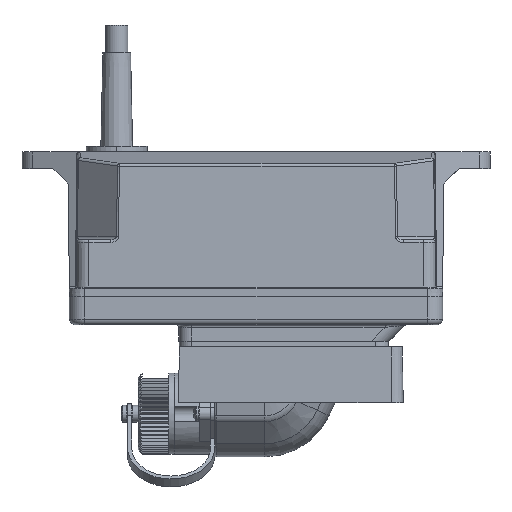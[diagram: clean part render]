
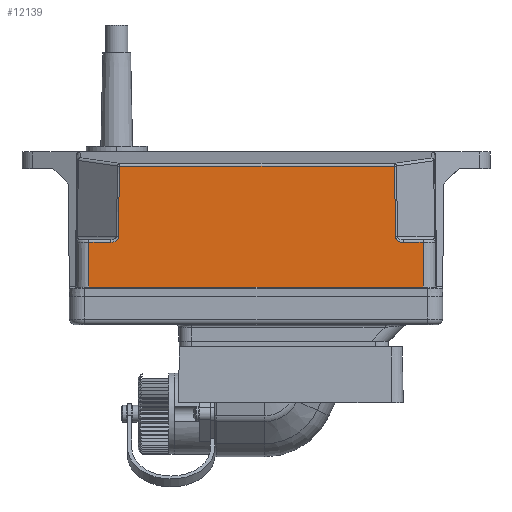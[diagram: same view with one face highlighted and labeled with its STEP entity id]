
A CAD part, left-side view. The second image highlights one B-rep face of the part: STEP entity #12139.
In plain terms, the highlighted planar face has unit normal (-1, 0, 0.009).
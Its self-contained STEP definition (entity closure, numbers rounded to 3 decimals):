
#250 = CARTESIAN_POINT ( 'NONE',  ( -43.339, -50.115, 21.474 ) ) ;
#365 = VERTEX_POINT ( 'NONE', #12010 ) ;
#572 = ORIENTED_EDGE ( 'NONE', *, *, #8343, .T. ) ;
#639 = CARTESIAN_POINT ( 'NONE',  ( -43.496, -60., 3.496 ) ) ;
#922 = VECTOR ( 'NONE', #4870, 1000. ) ;
#1556 = CARTESIAN_POINT ( 'NONE',  ( -43.356, 61.5, 19.509 ) ) ;
#1908 = LINE ( 'NONE', #27332, #922 ) ;
#2436 = AXIS2_PLACEMENT_3D ( 'NONE', #30687, #37071, #17953 ) ;
#2561 = CARTESIAN_POINT ( 'NONE',  ( -43.356, -51.292, 19.509 ) ) ;
#2592 = LINE ( 'NONE', #39404, #27234 ) ;
#2793 = LINE ( 'NONE', #19120, #35883 ) ;
#3977 = ORIENTED_EDGE ( 'NONE', *, *, #26644, .T. ) ;
#4320 = VERTEX_POINT ( 'NONE', #30491 ) ;
#4870 = DIRECTION ( 'NONE',  ( 0.009, 0., 1. ) ) ;
#4957 =( BOUNDED_CURVE ( )  B_SPLINE_CURVE ( 3, ( #18558, #21786, #2561, #25024 ),
 .UNSPECIFIED., .F., .F. ) 
 B_SPLINE_CURVE_WITH_KNOTS ( ( 4, 4 ),
 ( 0.005, 1.558 ),
 .UNSPECIFIED. ) 
 CURVE ( )  GEOMETRIC_REPRESENTATION_ITEM ( )  RATIONAL_B_SPLINE_CURVE ( ( 1., 0.809, 0.809, 1. ) ) 
 REPRESENTATION_ITEM ( '' )  );
#6917 = CARTESIAN_POINT ( 'NONE',  ( -43.356, 52.219, 19.509 ) ) ;
#7476 = LINE ( 'NONE', #1556, #40383 ) ;
#7999 = VERTEX_POINT ( 'NONE', #37237 ) ;
#8343 = EDGE_CURVE ( 'NONE', #31584, #7999, #7476, .T. ) ;
#10272 = EDGE_CURVE ( 'NONE', #31584, #13398, #18372, .T. ) ;
#10889 = VECTOR ( 'NONE', #38330, 1000. ) ;
#11219 = EDGE_CURVE ( 'NONE', #25488, #13398, #13315, .T. ) ;
#11451 = LINE ( 'NONE', #20601, #36888 ) ;
#12010 = CARTESIAN_POINT ( 'NONE',  ( -43.356, -52.926, 19.509 ) ) ;
#12139 = ADVANCED_FACE ( 'NONE', ( #15746 ), #39950, .T. ) ;
#12286 = VECTOR ( 'NONE', #20000, 1000. ) ;
#12404 = ORIENTED_EDGE ( 'NONE', *, *, #25585, .T. ) ;
#12610 = EDGE_LOOP ( 'NONE', ( #14961, #19302, #21280, #12404, #34320, #24752, #3977, #27639, #38376, #572 ) ) ;
#13315 = LINE ( 'NONE', #16782, #12286 ) ;
#13396 = CARTESIAN_POINT ( 'NONE',  ( -43.356, 50.585, 19.509 ) ) ;
#13398 = VERTEX_POINT ( 'NONE', #27932 ) ;
#14961 = ORIENTED_EDGE ( 'NONE', *, *, #24282, .F. ) ;
#15529 = CARTESIAN_POINT ( 'NONE',  ( -43.5, -60., 3. ) ) ;
#15746 = FACE_OUTER_BOUND ( 'NONE', #12610, .T. ) ;
#16617 = CARTESIAN_POINT ( 'NONE',  ( -43.339, 49.408, 21.474 ) ) ;
#16782 = CARTESIAN_POINT ( 'NONE',  ( -43.347, 49.424, 20.493 ) ) ;
#17252 = VERTEX_POINT ( 'NONE', #639 ) ;
#17953 = DIRECTION ( 'NONE',  ( 0.009, 0., 1. ) ) ;
#18372 =( BOUNDED_CURVE ( )  B_SPLINE_CURVE ( 3, ( #6917, #13396, #35738, #16617 ),
 .UNSPECIFIED., .F., .F. ) 
 B_SPLINE_CURVE_WITH_KNOTS ( ( 4, 4 ),
 ( 4.725, 6.278 ),
 .UNSPECIFIED. ) 
 CURVE ( )  GEOMETRIC_REPRESENTATION_ITEM ( )  RATIONAL_B_SPLINE_CURVE ( ( 1., 0.809, 0.809, 1. ) ) 
 REPRESENTATION_ITEM ( '' )  );
#18558 = CARTESIAN_POINT ( 'NONE',  ( -43.339, -50.115, 21.474 ) ) ;
#19120 = CARTESIAN_POINT ( 'NONE',  ( -43.11, -49.696, 47.741 ) ) ;
#19302 = ORIENTED_EDGE ( 'NONE', *, *, #22741, .T. ) ;
#20000 = DIRECTION ( 'NONE',  ( -0.009, 0.016, -1. ) ) ;
#20601 = CARTESIAN_POINT ( 'NONE',  ( -43.356, -50.545, 19.509 ) ) ;
#21280 = ORIENTED_EDGE ( 'NONE', *, *, #24407, .T. ) ;
#21786 = CARTESIAN_POINT ( 'NONE',  ( -43.349, -50.134, 20.319 ) ) ;
#22525 = VECTOR ( 'NONE', #28400, 1000. ) ;
#22741 = EDGE_CURVE ( 'NONE', #32180, #17252, #2592, .T. ) ;
#22852 = CARTESIAN_POINT ( 'NONE',  ( -43.117, 49.003, 46.886 ) ) ;
#23820 = DIRECTION ( 'NONE',  ( 0., 1., 0. ) ) ;
#23823 = CARTESIAN_POINT ( 'NONE',  ( -43.356, 52.219, 19.509 ) ) ;
#24282 = EDGE_CURVE ( 'NONE', #32180, #7999, #1908, .T. ) ;
#24407 = EDGE_CURVE ( 'NONE', #17252, #33620, #30998, .T. ) ;
#24752 = ORIENTED_EDGE ( 'NONE', *, *, #26319, .T. ) ;
#25024 = CARTESIAN_POINT ( 'NONE',  ( -43.356, -52.926, 19.509 ) ) ;
#25488 = VERTEX_POINT ( 'NONE', #22852 ) ;
#25585 = EDGE_CURVE ( 'NONE', #33620, #365, #11451, .T. ) ;
#26252 = EDGE_CURVE ( 'NONE', #38499, #365, #4957, .T. ) ;
#26319 = EDGE_CURVE ( 'NONE', #38499, #4320, #2793, .T. ) ;
#26644 = EDGE_CURVE ( 'NONE', #4320, #25488, #36350, .T. ) ;
#27234 = VECTOR ( 'NONE', #30000, 1000. ) ;
#27266 = DIRECTION ( 'NONE',  ( 0., 1., 0. ) ) ;
#27332 = CARTESIAN_POINT ( 'NONE',  ( -43.5, 60., 3. ) ) ;
#27639 = ORIENTED_EDGE ( 'NONE', *, *, #11219, .T. ) ;
#27932 = CARTESIAN_POINT ( 'NONE',  ( -43.339, 49.408, 21.474 ) ) ;
#28400 = DIRECTION ( 'NONE',  ( 0.009, 0., 1. ) ) ;
#30000 = DIRECTION ( 'NONE',  ( 0., -1., 0. ) ) ;
#30491 = CARTESIAN_POINT ( 'NONE',  ( -43.117, -49.71, 46.886 ) ) ;
#30687 = CARTESIAN_POINT ( 'NONE',  ( -43.5, 61.5, 3. ) ) ;
#30998 = LINE ( 'NONE', #15529, #22525 ) ;
#31584 = VERTEX_POINT ( 'NONE', #23823 ) ;
#32180 = VERTEX_POINT ( 'NONE', #40557 ) ;
#33604 = CARTESIAN_POINT ( 'NONE',  ( -43.356, -60., 19.509 ) ) ;
#33620 = VERTEX_POINT ( 'NONE', #33604 ) ;
#34320 = ORIENTED_EDGE ( 'NONE', *, *, #26252, .F. ) ;
#35211 = CARTESIAN_POINT ( 'NONE',  ( -43.117, 49.403, 46.886 ) ) ;
#35738 = CARTESIAN_POINT ( 'NONE',  ( -43.349, 49.427, 20.319 ) ) ;
#35883 = VECTOR ( 'NONE', #41369, 1000. ) ;
#36350 = LINE ( 'NONE', #35211, #10889 ) ;
#36888 = VECTOR ( 'NONE', #23820, 1000. ) ;
#37071 = DIRECTION ( 'NONE',  ( -1., 0., 0.009 ) ) ;
#37237 = CARTESIAN_POINT ( 'NONE',  ( -43.356, 60., 19.509 ) ) ;
#38330 = DIRECTION ( 'NONE',  ( 0., 1., 0. ) ) ;
#38376 = ORIENTED_EDGE ( 'NONE', *, *, #10272, .F. ) ;
#38499 = VERTEX_POINT ( 'NONE', #250 ) ;
#39404 = CARTESIAN_POINT ( 'NONE',  ( -43.496, -60., 3.496 ) ) ;
#39950 = PLANE ( 'NONE',  #2436 ) ;
#40383 = VECTOR ( 'NONE', #27266, 1000. ) ;
#40557 = CARTESIAN_POINT ( 'NONE',  ( -43.496, 60., 3.496 ) ) ;
#41369 = DIRECTION ( 'NONE',  ( 0.009, 0.016, 1. ) ) ;
